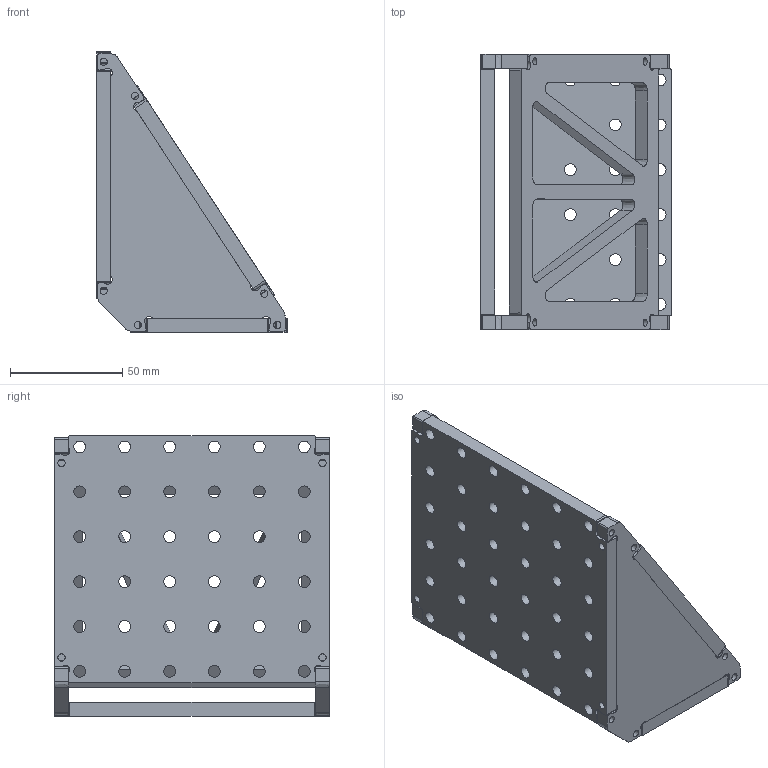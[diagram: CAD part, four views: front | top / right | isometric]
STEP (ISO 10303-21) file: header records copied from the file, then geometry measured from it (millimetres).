
FILE_DESCRIPTION(/* description */ (''),/* implementation_level */ '2;1');
FILE_NAME(/* name */ 'D:/Dropbox (Personal)/CBA/projects/machines/uSSM/cad/RCTBLK-90-025ALU-4UP_6-4-6.step',/* time_stamp */ '2018-10-31T12:02:00-04:00',/* author */ ('jakerobertread@gmail.com'),/* organization */ (''),/* preprocessor_version */ 'ST-DEVELOPER v17.2',/* originating_system */ 'Autodesk Translation Framework v7.6.0.251',/* authorisation */ '');
FILE_SCHEMA (('AUTOMOTIVE_DESIGN { 1 0 10303 214 3 1 1 }'));
Length unit declared in the file: millimetre
Products named in the file (1): RCTBLK-90-025ALU-4UP
Bounding box: 85 x 122.7 x 125 mm (x, y, z)
Volume: 225034.3 mm3; surface area: 97367 mm2
Topology: 5 solids, 5 shells, 302 faces, 876 edges, 584 vertices
Faces by surface type: cylinder 160, plane 94, bspline 48
Full cylindrical faces by diameter (mm): 3.25 x24, 5.25 x60
Entity records: 11829 total; most frequent: CARTESIAN_POINT 3679, ORIENTED_EDGE 1752, DIRECTION 1514, EDGE_CURVE 876, VERTEX_POINT 584, AXIS2_PLACEMENT_3D 575, EDGE_LOOP 478, LINE 364
